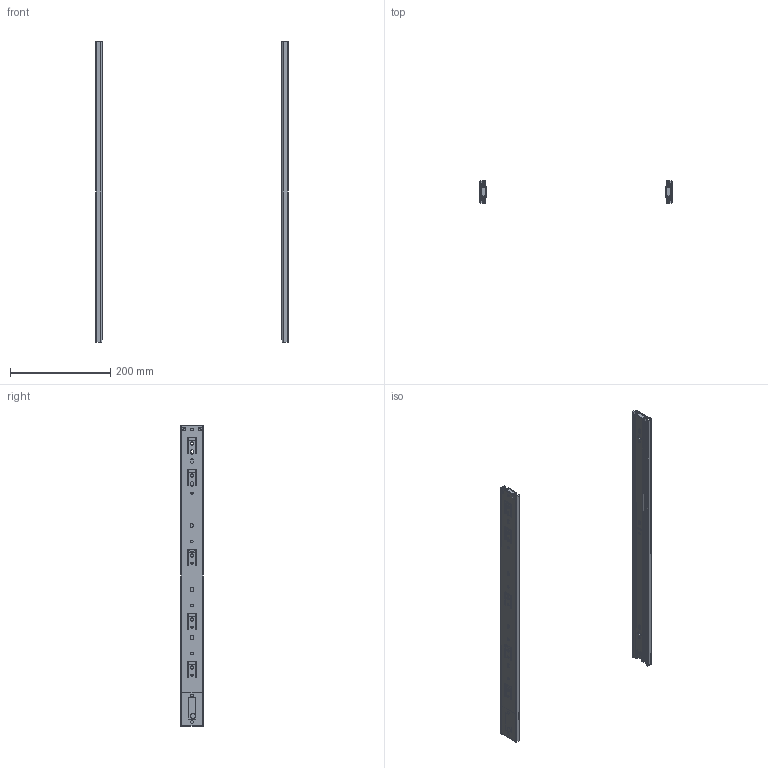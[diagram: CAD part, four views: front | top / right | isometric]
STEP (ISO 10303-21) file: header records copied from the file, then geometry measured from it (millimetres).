
FILE_DESCRIPTION(/* description */ (''),/* implementation_level */ '2;1');
FILE_NAME(/* name */ 'D:\$Workingspace\Designs\Katalog\Cadsoft\GTV Prowadnice\PK-S-H45-\PK-S-H45-600.stp',/* time_stamp */ '2018-09-20T13:08:48+02:00',/* author */ ('tomaszw'),/* organization */ (''),/* preprocessor_version */ 'ST-DEVELOPER v17',/* originating_system */ 'Autodesk Inventor 2019',/* authorisation */ '');
FILE_SCHEMA (('AUTOMOTIVE_DESIGN { 1 0 10303 214 3 1 1 }'));
Length unit declared in the file: millimetre
Products named in the file (6): PK-S-H45-600; PK-S-H45_1-600; PK-S-H45_2-600; PK-S-H45_3-600; PK-S-H45_4; PK-S-H45_5
Assembly tree (10 placements, depth 2):
  PK-S-H45-600
    PK-S-H45_1-600  x2
    PK-S-H45_2-600  x2
    PK-S-H45_3-600  x2
    PK-S-H45_4  x2
    PK-S-H45_5  x2
Bounding box: 384 x 44.5 x 600 mm (x, y, z)
Volume: 213816.1 mm3; surface area: 385275.8 mm2
Topology: 14 solids, 14 shells, 678 faces, 1908 edges, 1260 vertices
Faces by surface type: plane 350, cylinder 316, bspline 8, torus 4
Full cylindrical faces by diameter (mm): 4 x8, 4.5 x14, 4.9 x2, 5 x8, 6 x4, 6.4 x10, 10 x2
Entity records: 11867 total; most frequent: CARTESIAN_POINT 2076, DIRECTION 1970, ORIENTED_EDGE 1908, EDGE_CURVE 954, AXIS2_PLACEMENT_3D 674, VERTEX_POINT 630, LINE 622, VECTOR 622
